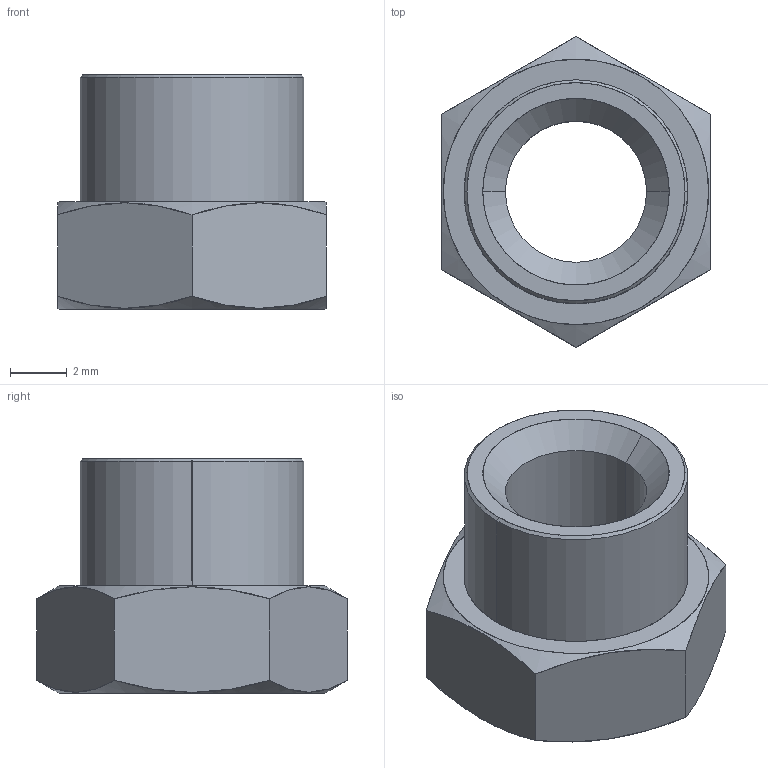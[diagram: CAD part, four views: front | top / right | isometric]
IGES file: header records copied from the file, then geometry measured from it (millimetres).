
Start section: SolidWorks IGES file using analytic representation for surfaces
Global section: file name: C:\Users\liam_\OneDrive\Desktop\Work\Mat Davis Pending 20181125\automotion\P SERIES\P0827.ZP_v2\P0827.ZP_v2_20181231_IGES\P0827.050-08G-ZP.igs; native system: SolidWorks 2017; preprocessor: SolidWorks 2017; author: liam_; date: 181231.110648; units: millimetre
Bounding box: 9.52 x 10.99 x 8.31 mm (x, y, z)
Surface area: 462.1 mm2 (no closed solid volume)
Topology: 0 solids, 0 shells, 23 faces, 376 edges, 376 vertices
Faces by surface type: revolution 14, bspline 9
